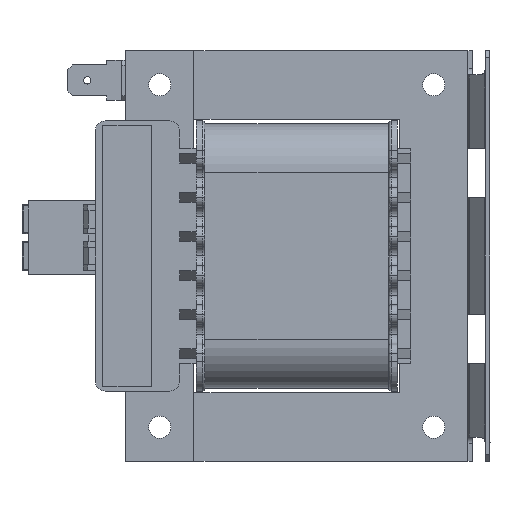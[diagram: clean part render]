
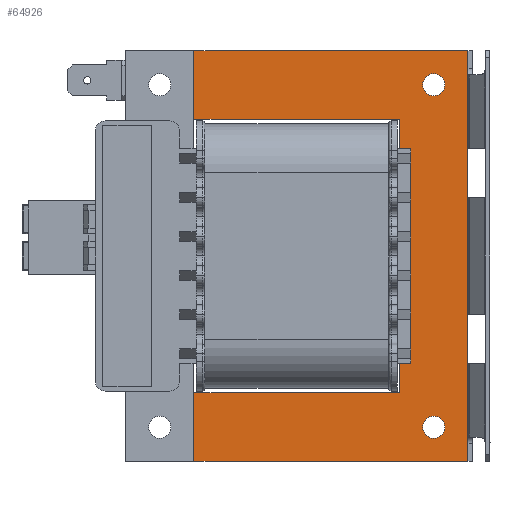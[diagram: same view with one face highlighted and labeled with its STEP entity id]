
A CAD part, left-side view. The second image highlights one B-rep face of the part: STEP entity #64926.
In plain terms, the highlighted planar face has unit normal (-1, 0, 0).
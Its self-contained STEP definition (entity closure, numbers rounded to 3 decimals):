
#320 = LINE ( 'NONE', #47388, #34236 ) ;
#1092 = EDGE_CURVE ( 'NONE', #34155, #17034, #28511, .T. ) ;
#2311 = LINE ( 'NONE', #23138, #18169 ) ;
#2357 = CARTESIAN_POINT ( 'NONE',  ( -14.75, 7., 35. ) ) ;
#2402 = CARTESIAN_POINT ( 'NONE',  ( -14.75, 56., -42. ) ) ;
#2920 = ORIENTED_EDGE ( 'NONE', *, *, #66709, .F. ) ;
#3083 = DIRECTION ( 'NONE',  ( 1., 0., 0. ) ) ;
#3470 = VERTEX_POINT ( 'NONE', #15851 ) ;
#4676 = DIRECTION ( 'NONE',  ( 0., 0., -1. ) ) ;
#6205 = CARTESIAN_POINT ( 'NONE',  ( -14.75, 14., 14. ) ) ;
#6814 = DIRECTION ( 'NONE',  ( 0., 0., 1. ) ) ;
#7714 = VERTEX_POINT ( 'NONE', #66850 ) ;
#8620 = LINE ( 'NONE', #39074, #60376 ) ;
#9164 = DIRECTION ( 'NONE',  ( 0., 0., -1. ) ) ;
#10740 = DIRECTION ( 'NONE',  ( 0., -1., 0. ) ) ;
#10893 = CIRCLE ( 'NONE', #38086, 2.25 ) ;
#10950 = VERTEX_POINT ( 'NONE', #87329 ) ;
#11649 = ORIENTED_EDGE ( 'NONE', *, *, #1092, .F. ) ;
#11939 = VECTOR ( 'NONE', #81069, 1000. ) ;
#12007 = VERTEX_POINT ( 'NONE', #20993 ) ;
#13120 = LINE ( 'NONE', #2402, #82642 ) ;
#13868 = CARTESIAN_POINT ( 'NONE',  ( -14.75, 7., 32.75 ) ) ;
#13901 = VECTOR ( 'NONE', #4676, 1000. ) ;
#15851 = CARTESIAN_POINT ( 'NONE',  ( -14.75, 0., 42. ) ) ;
#17034 = VERTEX_POINT ( 'NONE', #54847 ) ;
#17905 = VERTEX_POINT ( 'NONE', #6205 ) ;
#17912 = VERTEX_POINT ( 'NONE', #13868 ) ;
#18169 = VECTOR ( 'NONE', #36479, 1000. ) ;
#20654 = ORIENTED_EDGE ( 'NONE', *, *, #56273, .F. ) ;
#20691 = CARTESIAN_POINT ( 'NONE',  ( -14.75, 7., -37.25 ) ) ;
#20993 = CARTESIAN_POINT ( 'NONE',  ( -14.75, 14., -28. ) ) ;
#21042 = AXIS2_PLACEMENT_3D ( 'NONE', #2357, #49686, #9164 ) ;
#22748 = ORIENTED_EDGE ( 'NONE', *, *, #30311, .F. ) ;
#23138 = CARTESIAN_POINT ( 'NONE',  ( -14.75, 56., 28. ) ) ;
#25050 = DIRECTION ( 'NONE',  ( 0., -1., 0. ) ) ;
#25578 = CARTESIAN_POINT ( 'NONE',  ( -14.75, 14., 28. ) ) ;
#25955 = EDGE_LOOP ( 'NONE', ( #54488, #62305, #20654, #53390, #36300, #85578, #60499, #2920, #36819, #11649, #22748, #77423 ) ) ;
#27254 = CARTESIAN_POINT ( 'NONE',  ( -14.75, 14., 28. ) ) ;
#27325 = CARTESIAN_POINT ( 'NONE',  ( -14.75, 0., -42. ) ) ;
#28128 = CARTESIAN_POINT ( 'NONE',  ( -14.75, 56., -28. ) ) ;
#28447 = FACE_BOUND ( 'NONE', #49413, .T. ) ;
#28511 = LINE ( 'NONE', #29108, #44416 ) ;
#28856 = CARTESIAN_POINT ( 'NONE',  ( -14.75, 14., -14. ) ) ;
#29108 = CARTESIAN_POINT ( 'NONE',  ( -14.75, 0., -42. ) ) ;
#29401 = EDGE_CURVE ( 'NONE', #10950, #63658, #320, .T. ) ;
#29538 = VECTOR ( 'NONE', #25050, 1000. ) ;
#29974 = LINE ( 'NONE', #27254, #11939 ) ;
#30311 = EDGE_CURVE ( 'NONE', #3470, #34155, #49889, .T. ) ;
#30593 = FACE_OUTER_BOUND ( 'NONE', #25955, .T. ) ;
#30746 = CARTESIAN_POINT ( 'NONE',  ( -14.75, 56., 42. ) ) ;
#31670 = CARTESIAN_POINT ( 'NONE',  ( -14.75, 0., 42. ) ) ;
#31994 = PLANE ( 'NONE',  #83453 ) ;
#32124 = EDGE_LOOP ( 'NONE', ( #38733 ) ) ;
#32340 = CIRCLE ( 'NONE', #21042, 2.25 ) ;
#34100 = CARTESIAN_POINT ( 'NONE',  ( -14.75, 56., -28. ) ) ;
#34155 = VERTEX_POINT ( 'NONE', #27325 ) ;
#34236 = VECTOR ( 'NONE', #6814, 1000. ) ;
#34329 = EDGE_CURVE ( 'NONE', #17034, #78544, #13120, .T. ) ;
#35899 = CARTESIAN_POINT ( 'NONE',  ( -14.75, 14., -28. ) ) ;
#36300 = ORIENTED_EDGE ( 'NONE', *, *, #29401, .F. ) ;
#36479 = DIRECTION ( 'NONE',  ( 0., 0., 1. ) ) ;
#36491 = DIRECTION ( 'NONE',  ( 0., 0., 1. ) ) ;
#36819 = ORIENTED_EDGE ( 'NONE', *, *, #34329, .F. ) ;
#37725 = CARTESIAN_POINT ( 'NONE',  ( -14.75, 56., 42. ) ) ;
#38086 = AXIS2_PLACEMENT_3D ( 'NONE', #43676, #3083, #50406 ) ;
#38733 = ORIENTED_EDGE ( 'NONE', *, *, #59284, .T. ) ;
#39074 = CARTESIAN_POINT ( 'NONE',  ( -14.75, 14., -14. ) ) ;
#39673 = DIRECTION ( 'NONE',  ( 0., 1., 0. ) ) ;
#41651 = LINE ( 'NONE', #35899, #61547 ) ;
#42631 = VERTEX_POINT ( 'NONE', #28856 ) ;
#42916 = EDGE_CURVE ( 'NONE', #12007, #42631, #41651, .T. ) ;
#43676 = CARTESIAN_POINT ( 'NONE',  ( -14.75, 7., -35. ) ) ;
#44416 = VECTOR ( 'NONE', #39673, 1000. ) ;
#45215 = VECTOR ( 'NONE', #81901, 1000. ) ;
#45605 = DIRECTION ( 'NONE',  ( 0., 0., -1. ) ) ;
#45836 = DIRECTION ( 'NONE',  ( 0., 1., 0. ) ) ;
#47150 = ORIENTED_EDGE ( 'NONE', *, *, #68041, .T. ) ;
#47388 = CARTESIAN_POINT ( 'NONE',  ( -14.75, 56., -14. ) ) ;
#47655 = CARTESIAN_POINT ( 'NONE',  ( -14.75, 56., 14. ) ) ;
#49413 = EDGE_LOOP ( 'NONE', ( #47150 ) ) ;
#49686 = DIRECTION ( 'NONE',  ( 1., 0., 0. ) ) ;
#49889 = LINE ( 'NONE', #31670, #13901 ) ;
#50406 = DIRECTION ( 'NONE',  ( 0., 0., -1. ) ) ;
#52715 = VECTOR ( 'NONE', #10740, 1000. ) ;
#53390 = ORIENTED_EDGE ( 'NONE', *, *, #81014, .F. ) ;
#54215 = VERTEX_POINT ( 'NONE', #25578 ) ;
#54488 = ORIENTED_EDGE ( 'NONE', *, *, #68558, .F. ) ;
#54847 = CARTESIAN_POINT ( 'NONE',  ( -14.75, 56., -42. ) ) ;
#56273 = EDGE_CURVE ( 'NONE', #17905, #54215, #81140, .T. ) ;
#58757 = VERTEX_POINT ( 'NONE', #30746 ) ;
#59284 = EDGE_CURVE ( 'NONE', #17912, #17912, #32340, .T. ) ;
#60376 = VECTOR ( 'NONE', #45836, 1000. ) ;
#60499 = ORIENTED_EDGE ( 'NONE', *, *, #42916, .F. ) ;
#61547 = VECTOR ( 'NONE', #69388, 1000. ) ;
#62305 = ORIENTED_EDGE ( 'NONE', *, *, #84259, .F. ) ;
#63265 = VECTOR ( 'NONE', #63734, 1000. ) ;
#63429 = CARTESIAN_POINT ( 'NONE',  ( -14.75, 14., 14. ) ) ;
#63658 = VERTEX_POINT ( 'NONE', #47655 ) ;
#63734 = DIRECTION ( 'NONE',  ( 0., 0., 1. ) ) ;
#63909 = LINE ( 'NONE', #28128, #45215 ) ;
#64249 = FACE_BOUND ( 'NONE', #32124, .T. ) ;
#64926 = ADVANCED_FACE ( 'NONE', ( #28447, #64249, #30593 ), #31994, .F. ) ;
#65306 = LINE ( 'NONE', #78902, #29538 ) ;
#66709 = EDGE_CURVE ( 'NONE', #78544, #12007, #63909, .T. ) ;
#66850 = CARTESIAN_POINT ( 'NONE',  ( -14.75, 56., 28. ) ) ;
#68041 = EDGE_CURVE ( 'NONE', #69594, #69594, #10893, .T. ) ;
#68558 = EDGE_CURVE ( 'NONE', #7714, #58757, #2311, .T. ) ;
#69388 = DIRECTION ( 'NONE',  ( 0., 0., 1. ) ) ;
#69594 = VERTEX_POINT ( 'NONE', #20691 ) ;
#72676 = LINE ( 'NONE', #37725, #52715 ) ;
#73994 = EDGE_CURVE ( 'NONE', #42631, #10950, #8620, .T. ) ;
#75539 = EDGE_CURVE ( 'NONE', #58757, #3470, #72676, .T. ) ;
#77423 = ORIENTED_EDGE ( 'NONE', *, *, #75539, .F. ) ;
#78544 = VERTEX_POINT ( 'NONE', #34100 ) ;
#78902 = CARTESIAN_POINT ( 'NONE',  ( -14.75, 56., 14. ) ) ;
#79028 = CARTESIAN_POINT ( 'NONE',  ( -14.75, 56., -28. ) ) ;
#81014 = EDGE_CURVE ( 'NONE', #63658, #17905, #65306, .T. ) ;
#81069 = DIRECTION ( 'NONE',  ( 0., 1., 0. ) ) ;
#81140 = LINE ( 'NONE', #63429, #63265 ) ;
#81901 = DIRECTION ( 'NONE',  ( 0., -1., 0. ) ) ;
#82642 = VECTOR ( 'NONE', #36491, 1000. ) ;
#83453 = AXIS2_PLACEMENT_3D ( 'NONE', #79028, #85726, #45605 ) ;
#84259 = EDGE_CURVE ( 'NONE', #54215, #7714, #29974, .T. ) ;
#85578 = ORIENTED_EDGE ( 'NONE', *, *, #73994, .F. ) ;
#85726 = DIRECTION ( 'NONE',  ( 1., 0., 0. ) ) ;
#87329 = CARTESIAN_POINT ( 'NONE',  ( -14.75, 56., -14. ) ) ;
